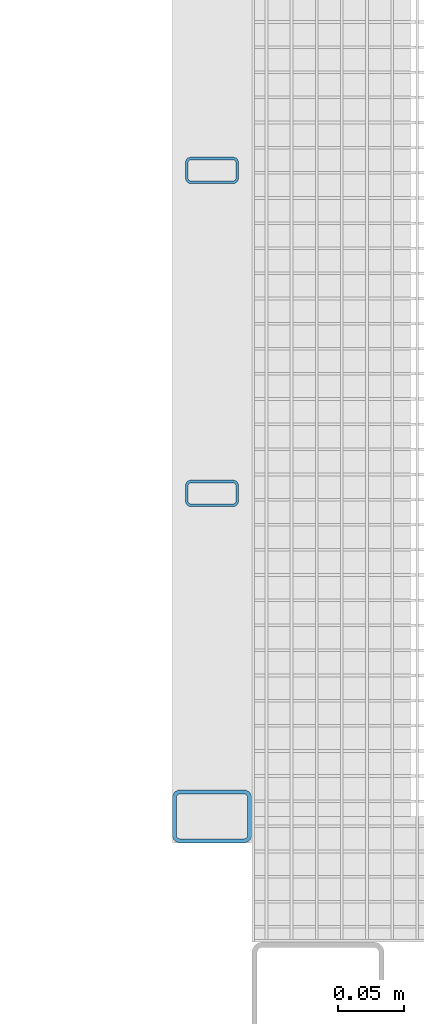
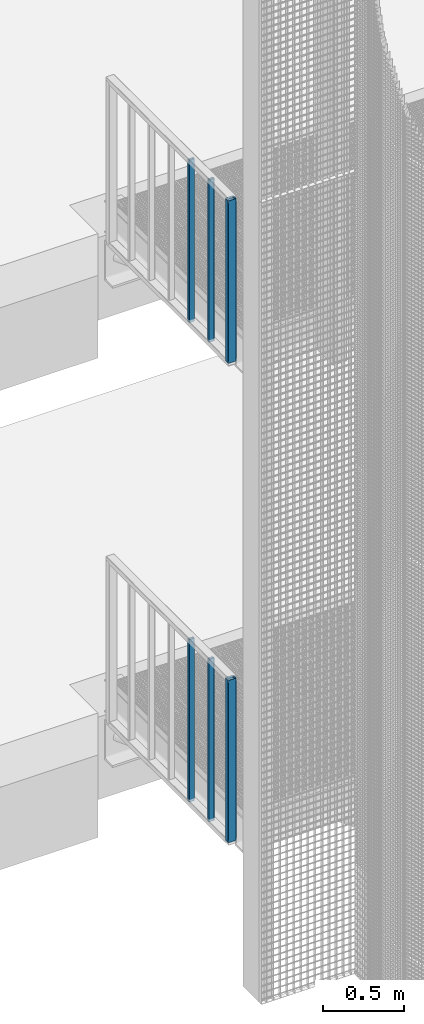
# One storey, part 20 of 1148: 6 columns, 6 elements without a shape of their own.
"""IFC2X3 building model written with IfcOpenShell, lengths in millimetres."""

from ifc_helpers import new_model, si_unit, frame, origin_with_axes, origin_2d_with_axis, place, context, subcontext, project, spatial, hollow_rectangle, extrude, material, type_object, element, aggregate, save


model = new_model("IFC2X3")

# Units and contexts
model_context = context("Model", 3, precision=1e-05, world=origin_with_axes())
body_context = subcontext(model_context, "Body", "Model", "MODEL_VIEW")
ifc_project = project(units=[si_unit("LENGTHUNIT", "METRE", prefix="MILLI"), si_unit("AREAUNIT", "SQUARE_METRE"), si_unit("VOLUMEUNIT", "CUBIC_METRE"), si_unit("MASSUNIT", "GRAM", prefix="KILO"), si_unit("TIMEUNIT", "SECOND"), si_unit("PLANEANGLEUNIT", "RADIAN"), si_unit("SOLIDANGLEUNIT", "STERADIAN"), si_unit("THERMODYNAMICTEMPERATUREUNIT", "DEGREE_CELSIUS"), si_unit("LUMINOUSINTENSITYUNIT", "LUMEN")], contexts=[model_context])

# Site, building, storey
site_placement = place(None, origin_with_axes())
site = spatial("IfcSite", under=ifc_project, at=site_placement, Name="Undefined", CompositionType="ELEMENT")
building_placement = place(site_placement, origin_with_axes())
building = spatial("IfcBuilding", under=site, at=building_placement, Name="Undefined", CompositionType="ELEMENT")
storey_placement = place(building_placement, origin_with_axes())
storey = spatial("IfcBuildingStorey", under=building, at=storey_placement, Name="Undefined", CompositionType="ELEMENT", Elevation=0.0)

# Assembly, column
assembly_1_placement = place(storey_placement, origin_with_axes())
assembly_1 = element("IfcElementAssembly", 1, at=assembly_1_placement, inside=storey, Name="STANCHION", AssemblyPlace="NOTDEFINED", PredefinedType="NOTDEFINED")
ifc_material = material(Name="Undefined/FE510D")
column_type_1 = type_object("IfcColumnType", Name="TUBE-R-40*20*2", PredefinedType="NOTDEFINED")
column_1_placement = place(assembly_1_placement, frame((-1580.0682041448, 1683.34979617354, 9820.0), z_axis=(0.0, 0.0, 1.0), x_axis=(-0.999999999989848, 4.50600000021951e-06, 0.0)))
column_1 = element("IfcColumn", 2, at=column_1_placement, type_object=column_type_1, material=ifc_material, Name="STANCHION", context=body_context, shape_type="SweptSolid", body=[
    extrude(hollow_rectangle(XDim=20.0, YDim=40.0, WallThickness=2.0, InnerFilletRadius=2.0, OuterFilletRadius=4.0, at=origin_2d_with_axis()), frame((0.0, 0.0, 1219.99999999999), z_axis=(0.0, 0.0, -1.0), x_axis=(0.0, 1.0, 0.0)), (0.0, 0.0, 1.0), 1220.0),
])
aggregate(assembly_1, [column_1])

assembly_2_placement = place(storey_placement, origin_with_axes())
assembly_2 = element("IfcElementAssembly", 3, at=assembly_2_placement, inside=storey, Name="STANCHION", AssemblyPlace="NOTDEFINED", PredefinedType="NOTDEFINED")
column_2_placement = place(assembly_2_placement, frame((-1580.06930437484, 1439.17979617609, 9820.0), z_axis=(0.0, 0.0, 1.0), x_axis=(-0.999999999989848, 4.50600000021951e-06, 0.0)))
column_2 = element("IfcColumn", 4, at=column_2_placement, type_object=column_type_1, material=ifc_material, Name="STANCHION", context=body_context, shape_type="SweptSolid", body=[
    extrude(hollow_rectangle(XDim=20.0, YDim=40.0, WallThickness=2.0, InnerFilletRadius=2.0, OuterFilletRadius=4.0, at=origin_2d_with_axis()), frame((0.0, 0.0, 1219.99999999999), z_axis=(0.0, 0.0, -1.0), x_axis=(0.0, 1.0, 0.0)), (0.0, 0.0, 1.0), 1220.0),
])
aggregate(assembly_2, [column_2])

assembly_3_placement = place(storey_placement, origin_with_axes())
assembly_3 = element("IfcElementAssembly", 5, at=assembly_3_placement, inside=storey, Name="STANCHION", AssemblyPlace="NOTDEFINED", PredefinedType="NOTDEFINED")
column_3_placement = place(assembly_3_placement, frame((-1580.0682041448, 1683.34979617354, 6220.0), z_axis=(0.0, 0.0, 1.0), x_axis=(-0.999999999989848, 4.50600000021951e-06, 0.0)))
column_3 = element("IfcColumn", 6, at=column_3_placement, type_object=column_type_1, material=ifc_material, Name="STANCHION", context=body_context, shape_type="SweptSolid", body=[
    extrude(hollow_rectangle(XDim=20.0, YDim=40.0, WallThickness=2.0, InnerFilletRadius=2.0, OuterFilletRadius=4.0, at=origin_2d_with_axis()), frame((0.0, 0.0, 1219.99999999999), z_axis=(0.0, 0.0, -1.0), x_axis=(0.0, 1.0, 0.0)), (0.0, 0.0, 1.0), 1220.0),
])
aggregate(assembly_3, [column_3])

assembly_4_placement = place(storey_placement, origin_with_axes())
assembly_4 = element("IfcElementAssembly", 7, at=assembly_4_placement, inside=storey, Name="STANCHION", AssemblyPlace="NOTDEFINED", PredefinedType="NOTDEFINED")
column_4_placement = place(assembly_4_placement, frame((-1580.06930437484, 1439.17979617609, 6220.0), z_axis=(0.0, 0.0, 1.0), x_axis=(-0.999999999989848, 4.50600000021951e-06, 0.0)))
column_4 = element("IfcColumn", 8, at=column_4_placement, type_object=column_type_1, material=ifc_material, Name="STANCHION", context=body_context, shape_type="SweptSolid", body=[
    extrude(hollow_rectangle(XDim=20.0, YDim=40.0, WallThickness=2.0, InnerFilletRadius=2.0, OuterFilletRadius=4.0, at=origin_2d_with_axis()), frame((0.0, 0.0, 1219.99999999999), z_axis=(0.0, 0.0, -1.0), x_axis=(0.0, 1.0, 0.0)), (0.0, 0.0, 1.0), 1220.0),
])
aggregate(assembly_4, [column_4])

assembly_5_placement = place(storey_placement, origin_with_axes())
assembly_5 = element("IfcElementAssembly", 9, at=assembly_5_placement, inside=storey, Name="STANCHION", AssemblyPlace="NOTDEFINED", PredefinedType="NOTDEFINED")
column_type_2 = type_object("IfcColumnType", Name="TUBE-R-60*40*3", PredefinedType="NOTDEFINED")
column_5_placement = place(assembly_5_placement, frame((-1580.07043456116, 1195.01007484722, 9820.0), z_axis=(0.0, 0.0, 1.0), x_axis=(-0.999999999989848, 4.50600000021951e-06, 0.0)))
column_5 = element("IfcColumn", 10, at=column_5_placement, type_object=column_type_2, material=ifc_material, Name="STANCHION", context=body_context, shape_type="SweptSolid", body=[
    extrude(hollow_rectangle(XDim=40.0, YDim=60.0, WallThickness=3.0, InnerFilletRadius=3.0, OuterFilletRadius=6.0, at=origin_2d_with_axis()), frame((0.0, 0.0, 1219.99999999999), z_axis=(0.0, 0.0, -1.0), x_axis=(0.0, 1.0, 0.0)), (0.0, 0.0, 1.0), 1220.0),
])
aggregate(assembly_5, [column_5])

assembly_6_placement = place(storey_placement, origin_with_axes())
assembly_6 = element("IfcElementAssembly", 11, at=assembly_6_placement, inside=storey, Name="STANCHION", AssemblyPlace="NOTDEFINED", PredefinedType="NOTDEFINED")
column_6_placement = place(assembly_6_placement, frame((-1580.07043456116, 1195.01007484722, 6220.0), z_axis=(0.0, 0.0, 1.0), x_axis=(-0.999999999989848, 4.50600000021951e-06, 0.0)))
column_6 = element("IfcColumn", 12, at=column_6_placement, type_object=column_type_2, material=ifc_material, Name="STANCHION", context=body_context, shape_type="SweptSolid", body=[
    extrude(hollow_rectangle(XDim=40.0, YDim=60.0, WallThickness=3.0, InnerFilletRadius=3.0, OuterFilletRadius=6.0, at=origin_2d_with_axis()), frame((0.0, 0.0, 1219.99999999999), z_axis=(0.0, 0.0, -1.0), x_axis=(0.0, 1.0, 0.0)), (0.0, 0.0, 1.0), 1220.0),
])
aggregate(assembly_6, [column_6])

save(model, "model.ifc")
